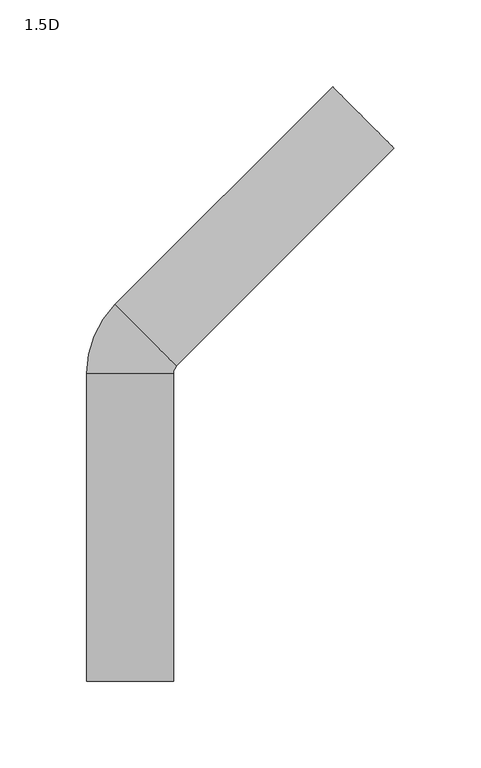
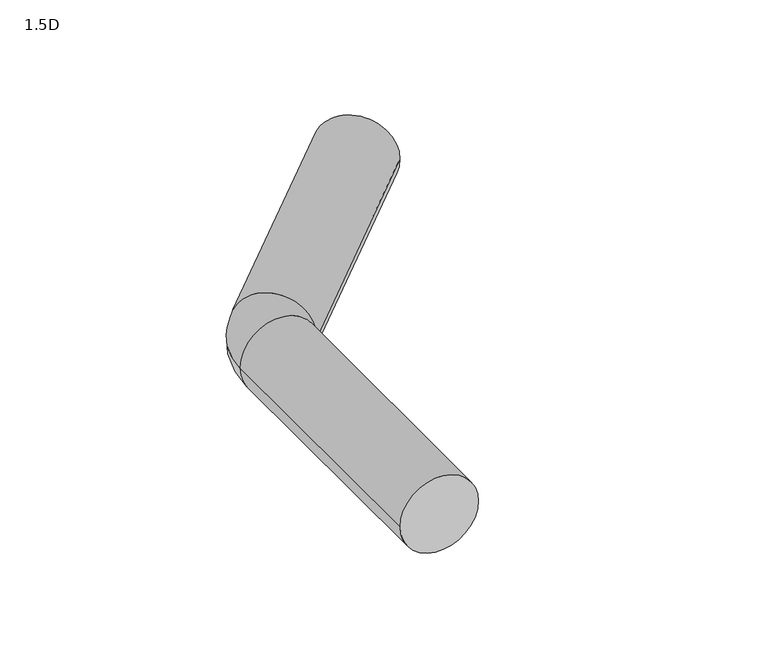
"""IFC4 building model written with IfcOpenShell, lengths in millimetres: pipe fitting geometry, Plumbing-Pipe-Fittings_Pexgol_Elbow-45-with-both-sides-plain-ends : 1.5D."""

from ifc_helpers import new_model, si_unit, point, frame, origin, place, context, project, spatial, circle_curve, ellipse_curve, trimmed, source, transform, mapped, element, save
from ifc_brep_helpers import plane_surface, cylinder_surface, revolved_surface, advanced_brep


def pipe_fitting_1_5d_9149ee35(model_context):
    return source(origin(), model_context, "Body", "AdvancedBrep", [
        advanced_brep(
        [(116.6726189, 152.027958, 0.0), (152.027958, 116.6726189, 0.0), (-8.5686904, 26.7866486, 0.0), (26.7866486, -8.5686904, 0.0), (25.0, -12.8820418, 0.0), (-25.0, -12.8820418, 0.0), (-25.0, -190.0, 0.0), (25.0, -190.0, 0.0)],
        [
            (0, 1, circle_curve(frame((134.3502884, 134.3502884, 0.0), z_axis=(0.707106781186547, 0.707106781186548, 0.0), x_axis=(0.707106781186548, -0.707106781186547, 0.0)), 25.0)),
            (1, 0, circle_curve(frame((134.3502884, 134.3502884, 0.0), z_axis=(0.707106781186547, 0.707106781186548, 0.0), x_axis=(0.707106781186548, -0.707106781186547, 0.0)), 25.0)),
            (0, 2),
            (2, 3, circle_curve(frame((9.1089791, 9.1089791, 0.0), z_axis=(0.707106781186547, 0.707106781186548, 0.0), x_axis=(0.707106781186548, -0.707106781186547, 0.0)), 25.0)),
            (3, 1),
            (3, 2, circle_curve(frame((9.1089791, 9.1089791, 0.0), z_axis=(0.707106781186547, 0.707106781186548, 0.0), x_axis=(0.707106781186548, -0.707106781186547, 0.0)), 25.0)),
            (4, 3, circle_curve(frame((31.1, -12.8820418, 0.0), z_axis=(0.0, 0.0, -1.0), x_axis=(-0.7071067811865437, 0.7071067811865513, 0.0)), 6.1)),
            (2, 5, circle_curve(frame((31.1, -12.8820418, 0.0), z_axis=(0.0, 0.0, 1.0), x_axis=(-0.7071067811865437, 0.7071067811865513, 0.0)), 56.1)),
            (5, 4, circle_curve(frame((0.0, -12.8820418, 0.0), z_axis=(0.0, 1.0, 0.0), x_axis=(1.0, 0.0, 0.0)), 25.0)),
            (4, 5, circle_curve(frame((0.0, -12.8820418, 0.0), z_axis=(0.0, 1.0, 0.0), x_axis=(1.0, 0.0, 0.0)), 25.0)),
            (6, 7, circle_curve(frame((0.0, -190.0, 0.0), z_axis=(0.0, -1.0, 0.0), x_axis=(1.0, 0.0, 0.0)), 25.0)),
            (7, 6, circle_curve(frame((0.0, -190.0, 0.0), z_axis=(0.0, -1.0, 0.0), x_axis=(1.0, 0.0, 0.0)), 25.0)),
            (5, 6),
            (7, 4),
        ],
        [
            plane_surface(frame((134.3502884, 134.3502884, 0.0), z_axis=(0.707106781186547, 0.707106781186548, 0.0), x_axis=(0.0, 0.0, 1.0))),
            cylinder_surface(frame((134.3502884, 134.3502884, 0.0), z_axis=(0.707106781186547, 0.707106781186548, 0.0), x_axis=(0.707106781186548, -0.707106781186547, 0.0)), 25.0),
            revolved_surface(trimmed(ellipse_curve(frame((9.1089791, 9.1089791, 0.0), z_axis=(0.7071067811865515, 0.7071067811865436, 0.0), x_axis=(0.7071067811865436, -0.7071067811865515, 0.0)), 25.0, 25.0), [point((-8.5686904, 26.7866486, 0.0))], [point((26.7866486, -8.5686904, 0.0))], True, "CARTESIAN"), (31.1, -12.8820418, 0.0), (0.0, 0.0, 1.0)),
            revolved_surface(trimmed(ellipse_curve(frame((9.1089791, 9.1089791, 0.0), z_axis=(0.7071067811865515, 0.7071067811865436, 0.0), x_axis=(0.7071067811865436, -0.7071067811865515, 0.0)), 25.0, 25.0), [point((26.7866486, -8.5686904, 0.0))], [point((-8.5686904, 26.7866486, 0.0))], True, "CARTESIAN"), (31.1, -12.8820418, 0.0), (0.0, 0.0, 1.0)),
            plane_surface(frame((0.0, -190.0, 0.0), z_axis=(0.0, -1.0, 0.0), x_axis=(0.0, 0.0, 1.0))),
            cylinder_surface(frame((0.0, -12.8820418, 0.0), z_axis=(0.0, 1.0, 0.0), x_axis=(1.0, 0.0, 0.0)), 25.0),
        ],
        [
            (0, [[1, 2]]),
            (1, [[-1, 3, 4, 5]]),
            (1, [[-2, -5, 6, -3]]),
            (2, [[7, -4, 8, 9]]),
            (3, [[-8, -6, -7, 10]]),
            (4, [[11, 12]]),
            (5, [[-9, 13, -12, 14]]),
            (5, [[-10, -14, -11, -13]]),
        ],
    ),
    ])


if __name__ == "__main__":
    model = new_model("IFC4")
    model_context = context("Model", 3, world=origin())
    ifc_project = project(units=[si_unit("LENGTHUNIT", "METRE", prefix="MILLI")], contexts=[model_context])
    site = spatial("IfcSite", under=ifc_project)
    building = spatial("IfcBuilding", under=site)
    placement = place(None, origin())
    pipe_fitting_1_5d_shape = pipe_fitting_1_5d_9149ee35(model_context)
    element("IfcPipeFitting", 1, ObjectType="Plumbing-Pipe-Fittings_Pexgol_Elbow-45-with-both-sides-plain-ends : 1.5D", at=placement, inside=building, context=model_context, shape_type="MappedRepresentation", body=[
        mapped(pipe_fitting_1_5d_shape, transform((0.0, 0.0, 0.0), x_axis=(1.0, 0.0, 0.0), y_axis=(0.0, 1.0, 0.0), z_axis=(0.0, 0.0, 1.0))),
    ])
    save(model, "model.ifc")
